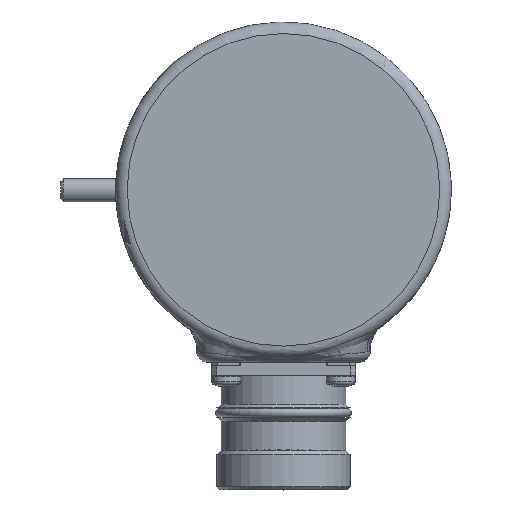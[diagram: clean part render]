
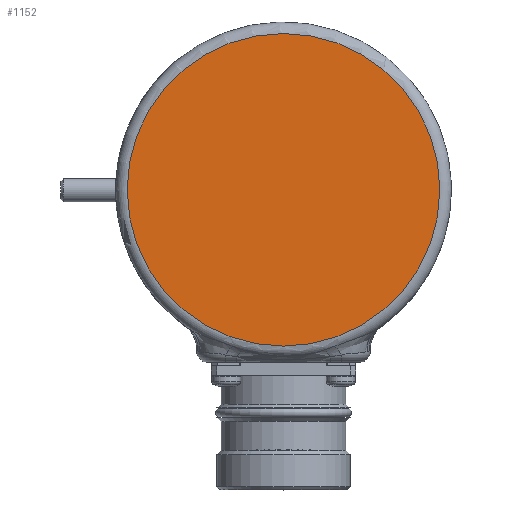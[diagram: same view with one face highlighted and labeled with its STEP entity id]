
A CAD part, top view. The second image highlights one B-rep face of the part: STEP entity #1152.
In plain terms, the highlighted planar face has unit normal (0, 0, 1).
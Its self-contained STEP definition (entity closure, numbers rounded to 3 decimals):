
#1152 = ADVANCED_FACE( '', ( #2370 ), #2371, .F. );
#2370 = FACE_OUTER_BOUND( '', #7005, .T. );
#2371 = PLANE( '', #7006 );
#7005 = EDGE_LOOP( '', ( #9931 ) );
#7006 = AXIS2_PLACEMENT_3D( '', #9932, #9933, #9934 );
#9931 = ORIENTED_EDGE( '', *, *, #11509, .T. );
#9932 = CARTESIAN_POINT( '', ( 0., 0., 39. ) );
#9933 = DIRECTION( '', ( 0., 0., -1. ) );
#9934 = DIRECTION( '', ( -1., 0., 0. ) );
#11509 = EDGE_CURVE( '', #14064, #14064, #14065, .F. );
#14064 = VERTEX_POINT( '', #18240 );
#14065 = CIRCLE( '', #18241, 27. );
#18240 = CARTESIAN_POINT( '', ( -27., 0., 39. ) );
#18241 = AXIS2_PLACEMENT_3D( '', #19899, #19900, #19901 );
#19899 = CARTESIAN_POINT( '', ( 0., 0., 39. ) );
#19900 = DIRECTION( '', ( 0., 0., -1. ) );
#19901 = DIRECTION( '', ( -1., 0., 0. ) );
